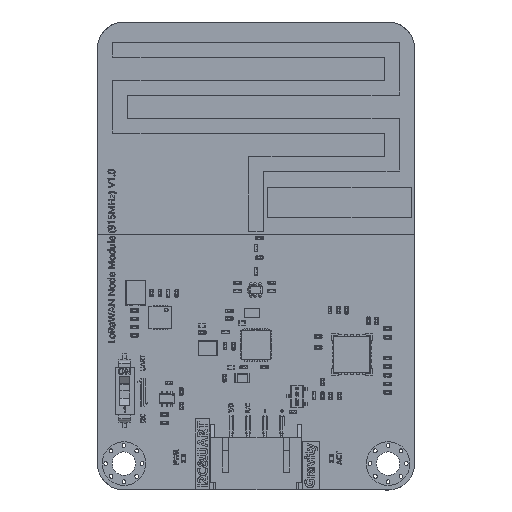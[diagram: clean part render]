
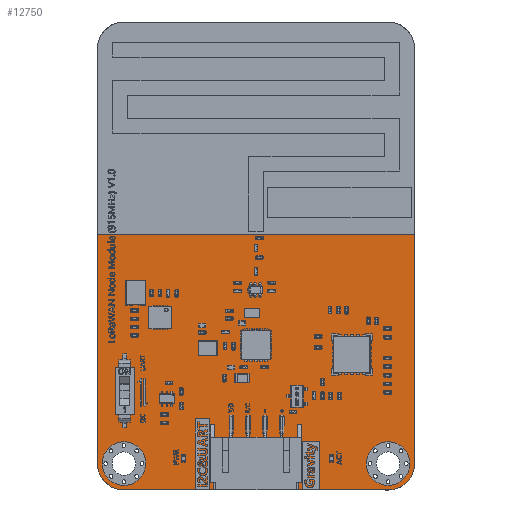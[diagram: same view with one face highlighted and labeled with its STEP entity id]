
A CAD part, top view. The second image highlights one B-rep face of the part: STEP entity #12750.
In plain terms, the highlighted planar face has unit normal (0, 0, 1).
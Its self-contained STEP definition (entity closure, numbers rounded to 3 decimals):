
#121=(
BOUNDED_CURVE()
B_SPLINE_CURVE(2,(#104707,#104708,#104709,#104710,#104711),
 .UNSPECIFIED.,.F.,.F.)
B_SPLINE_CURVE_WITH_KNOTS((3,2,3),(0.,2.749,5.498),
 .UNSPECIFIED.)
CURVE()
GEOMETRIC_REPRESENTATION_ITEM()
RATIONAL_B_SPLINE_CURVE((1.,0.924,1.,0.924,1.))
REPRESENTATION_ITEM('')
);
#122=(
BOUNDED_CURVE()
B_SPLINE_CURVE(2,(#104714,#104715,#104716,#104717,#104718),
 .UNSPECIFIED.,.F.,.F.)
B_SPLINE_CURVE_WITH_KNOTS((3,2,3),(0.,2.749,5.498),
 .UNSPECIFIED.)
CURVE()
GEOMETRIC_REPRESENTATION_ITEM()
RATIONAL_B_SPLINE_CURVE((1.,0.924,1.,0.924,1.))
REPRESENTATION_ITEM('')
);
#123=(
BOUNDED_CURVE()
B_SPLINE_CURVE(2,(#104721,#104722,#104723,#104724,#104725),
 .UNSPECIFIED.,.F.,.F.)
B_SPLINE_CURVE_WITH_KNOTS((3,2,3),(0.,2.749,5.498),
 .UNSPECIFIED.)
CURVE()
GEOMETRIC_REPRESENTATION_ITEM()
RATIONAL_B_SPLINE_CURVE((1.,0.924,1.,0.924,1.))
REPRESENTATION_ITEM('')
);
#124=(
BOUNDED_CURVE()
B_SPLINE_CURVE(2,(#104728,#104729,#104730,#104731,#104732),
 .UNSPECIFIED.,.F.,.F.)
B_SPLINE_CURVE_WITH_KNOTS((3,2,3),(0.,2.749,5.498),
 .UNSPECIFIED.)
CURVE()
GEOMETRIC_REPRESENTATION_ITEM()
RATIONAL_B_SPLINE_CURVE((1.,0.924,1.,0.924,1.))
REPRESENTATION_ITEM('')
);
#12229=FACE_BOUND('',#25039,.T.);
#12230=FACE_BOUND('',#25040,.T.);
#12750=ADVANCED_FACE('',(#18880,#12229,#12230),#90879,.T.);
#18880=FACE_OUTER_BOUND('',#25038,.T.);
#25038=EDGE_LOOP('',(#32777,#32778,#32779,#32780,#32781,#32782,#32783,#32784));
#25039=EDGE_LOOP('',(#32785,#32786));
#25040=EDGE_LOOP('',(#32787,#32788));
#32777=ORIENTED_EDGE('',*,*,#59609,.F.);
#32778=ORIENTED_EDGE('',*,*,#59616,.F.);
#32779=ORIENTED_EDGE('',*,*,#59615,.F.);
#32780=ORIENTED_EDGE('',*,*,#59614,.F.);
#32781=ORIENTED_EDGE('',*,*,#59613,.F.);
#32782=ORIENTED_EDGE('',*,*,#59612,.F.);
#32783=ORIENTED_EDGE('',*,*,#59611,.F.);
#32784=ORIENTED_EDGE('',*,*,#59610,.F.);
#32785=ORIENTED_EDGE('',*,*,#59633,.T.);
#32786=ORIENTED_EDGE('',*,*,#59640,.T.);
#32787=ORIENTED_EDGE('',*,*,#59636,.T.);
#32788=ORIENTED_EDGE('',*,*,#59643,.T.);
#59609=EDGE_CURVE('',#82498,#82499,#73626,.T.);
#59610=EDGE_CURVE('',#82499,#82500,#121,.T.);
#59611=EDGE_CURVE('',#82500,#82501,#73627,.T.);
#59612=EDGE_CURVE('',#82501,#82502,#122,.T.);
#59613=EDGE_CURVE('',#82502,#82503,#73628,.T.);
#59614=EDGE_CURVE('',#82503,#82504,#123,.T.);
#59615=EDGE_CURVE('',#82504,#82505,#73629,.T.);
#59616=EDGE_CURVE('',#82505,#82498,#124,.T.);
#59633=EDGE_CURVE('',#82514,#82519,#73642,.T.);
#59636=EDGE_CURVE('',#82516,#82521,#73645,.T.);
#59640=EDGE_CURVE('',#82519,#82514,#73649,.T.);
#59643=EDGE_CURVE('',#82521,#82516,#73652,.T.);
#73626=B_SPLINE_CURVE_WITH_KNOTS('',1,(#104705,#104706),.UNSPECIFIED.,.F.,
 .F.,(2,2),(0.,35.),.UNSPECIFIED.);
#73627=B_SPLINE_CURVE_WITH_KNOTS('',1,(#104712,#104713),.UNSPECIFIED.,.F.,
 .F.,(2,2),(0.,55.),.UNSPECIFIED.);
#73628=B_SPLINE_CURVE_WITH_KNOTS('',1,(#104719,#104720),.UNSPECIFIED.,.F.,
 .F.,(2,2),(0.,35.),.UNSPECIFIED.);
#73629=B_SPLINE_CURVE_WITH_KNOTS('',1,(#104726,#104727),.UNSPECIFIED.,.F.,
 .F.,(2,2),(0.,55.),.UNSPECIFIED.);
#73642=B_SPLINE_CURVE_WITH_KNOTS('',3,(#104777,#104778,#104779,#104780,
#104781,#104782,#104783),.UNSPECIFIED.,.F.,.F.,(4,3,4),(-4.,-3.,-2.),
 .UNSPECIFIED.);
#73645=B_SPLINE_CURVE_WITH_KNOTS('',3,(#104793,#104794,#104795,#104796,
#104797,#104798,#104799),.UNSPECIFIED.,.F.,.F.,(4,3,4),(-4.,-3.,-2.),
 .UNSPECIFIED.);
#73649=B_SPLINE_CURVE_WITH_KNOTS('',3,(#104811,#104812,#104813,#104814,
#104815,#104816,#104817),.UNSPECIFIED.,.F.,.F.,(4,3,4),(-2.,-1.,0.),
 .UNSPECIFIED.);
#73652=B_SPLINE_CURVE_WITH_KNOTS('',3,(#104827,#104828,#104829,#104830,
#104831,#104832,#104833),.UNSPECIFIED.,.F.,.F.,(4,3,4),(-2.,-1.,0.),
 .UNSPECIFIED.);
#82498=VERTEX_POINT('',#104681);
#82499=VERTEX_POINT('',#104682);
#82500=VERTEX_POINT('',#104683);
#82501=VERTEX_POINT('',#104684);
#82502=VERTEX_POINT('',#104685);
#82503=VERTEX_POINT('',#104686);
#82504=VERTEX_POINT('',#104687);
#82505=VERTEX_POINT('',#104688);
#82514=VERTEX_POINT('',#104697);
#82516=VERTEX_POINT('',#104699);
#82519=VERTEX_POINT('',#104702);
#82521=VERTEX_POINT('',#104704);
#90879=PLANE('',#94324);
#94324=AXIS2_PLACEMENT_3D('',#104579,#97223,$);
#97223=DIRECTION('',(0.,0.,1.));
#104579=CARTESIAN_POINT('',(25.2,-37.2,0.));
#104681=CARTESIAN_POINT('',(17.5,-31.,0.));
#104682=CARTESIAN_POINT('',(-17.5,-31.,0.));
#104683=CARTESIAN_POINT('',(-21.,-27.5,0.));
#104684=CARTESIAN_POINT('',(-21.,27.5,0.));
#104685=CARTESIAN_POINT('',(-17.5,31.,0.));
#104686=CARTESIAN_POINT('',(17.5,31.,0.));
#104687=CARTESIAN_POINT('',(21.,27.5,0.));
#104688=CARTESIAN_POINT('',(21.,-27.5,0.));
#104697=CARTESIAN_POINT('',(17.5,-24.614,0.));
#104699=CARTESIAN_POINT('',(-17.5,-24.614,0.));
#104702=CARTESIAN_POINT('',(17.5,-30.386,0.));
#104704=CARTESIAN_POINT('',(-17.5,-30.386,0.));
#104705=CARTESIAN_POINT('',(17.5,-31.,0.));
#104706=CARTESIAN_POINT('',(-17.5,-31.,0.));
#104707=CARTESIAN_POINT('',(-17.5,-31.,0.));
#104708=CARTESIAN_POINT('',(-18.95,-31.,0.));
#104709=CARTESIAN_POINT('',(-19.975,-29.975,0.));
#104710=CARTESIAN_POINT('',(-21.,-28.95,0.));
#104711=CARTESIAN_POINT('',(-21.,-27.5,0.));
#104712=CARTESIAN_POINT('',(-21.,-27.5,0.));
#104713=CARTESIAN_POINT('',(-21.,27.5,0.));
#104714=CARTESIAN_POINT('',(-21.,27.5,0.));
#104715=CARTESIAN_POINT('',(-21.,28.95,0.));
#104716=CARTESIAN_POINT('',(-19.975,29.975,0.));
#104717=CARTESIAN_POINT('',(-18.95,31.,0.));
#104718=CARTESIAN_POINT('',(-17.5,31.,0.));
#104719=CARTESIAN_POINT('',(-17.5,31.,0.));
#104720=CARTESIAN_POINT('',(17.5,31.,0.));
#104721=CARTESIAN_POINT('',(17.5,31.,0.));
#104722=CARTESIAN_POINT('',(18.95,31.,0.));
#104723=CARTESIAN_POINT('',(19.975,29.975,0.));
#104724=CARTESIAN_POINT('',(21.,28.95,0.));
#104725=CARTESIAN_POINT('',(21.,27.5,0.));
#104726=CARTESIAN_POINT('',(21.,27.5,0.));
#104727=CARTESIAN_POINT('',(21.,-27.5,0.));
#104728=CARTESIAN_POINT('',(21.,-27.5,0.));
#104729=CARTESIAN_POINT('',(21.,-28.95,0.));
#104730=CARTESIAN_POINT('',(19.975,-29.975,0.));
#104731=CARTESIAN_POINT('',(18.95,-31.,0.));
#104732=CARTESIAN_POINT('',(17.5,-31.,0.));
#104777=CARTESIAN_POINT('',(17.5,-24.614,0.));
#104778=CARTESIAN_POINT('',(19.095,-24.614,0.));
#104779=CARTESIAN_POINT('',(20.387,-25.906,0.));
#104780=CARTESIAN_POINT('',(20.387,-27.501,0.));
#104781=CARTESIAN_POINT('',(20.387,-29.094,0.));
#104782=CARTESIAN_POINT('',(19.095,-30.386,0.));
#104783=CARTESIAN_POINT('',(17.5,-30.386,0.));
#104793=CARTESIAN_POINT('',(-17.5,-24.614,0.));
#104794=CARTESIAN_POINT('',(-15.905,-24.614,0.));
#104795=CARTESIAN_POINT('',(-14.613,-25.906,0.));
#104796=CARTESIAN_POINT('',(-14.613,-27.501,0.));
#104797=CARTESIAN_POINT('',(-14.613,-29.094,0.));
#104798=CARTESIAN_POINT('',(-15.905,-30.386,0.));
#104799=CARTESIAN_POINT('',(-17.5,-30.386,0.));
#104811=CARTESIAN_POINT('',(17.5,-30.386,0.));
#104812=CARTESIAN_POINT('',(15.905,-30.386,0.));
#104813=CARTESIAN_POINT('',(14.613,-29.094,0.));
#104814=CARTESIAN_POINT('',(14.613,-27.501,0.));
#104815=CARTESIAN_POINT('',(14.613,-25.906,0.));
#104816=CARTESIAN_POINT('',(15.905,-24.614,0.));
#104817=CARTESIAN_POINT('',(17.5,-24.614,0.));
#104827=CARTESIAN_POINT('',(-17.5,-30.386,0.));
#104828=CARTESIAN_POINT('',(-19.095,-30.386,0.));
#104829=CARTESIAN_POINT('',(-20.387,-29.094,0.));
#104830=CARTESIAN_POINT('',(-20.387,-27.501,0.));
#104831=CARTESIAN_POINT('',(-20.387,-25.906,0.));
#104832=CARTESIAN_POINT('',(-19.095,-24.614,0.));
#104833=CARTESIAN_POINT('',(-17.5,-24.614,0.));
